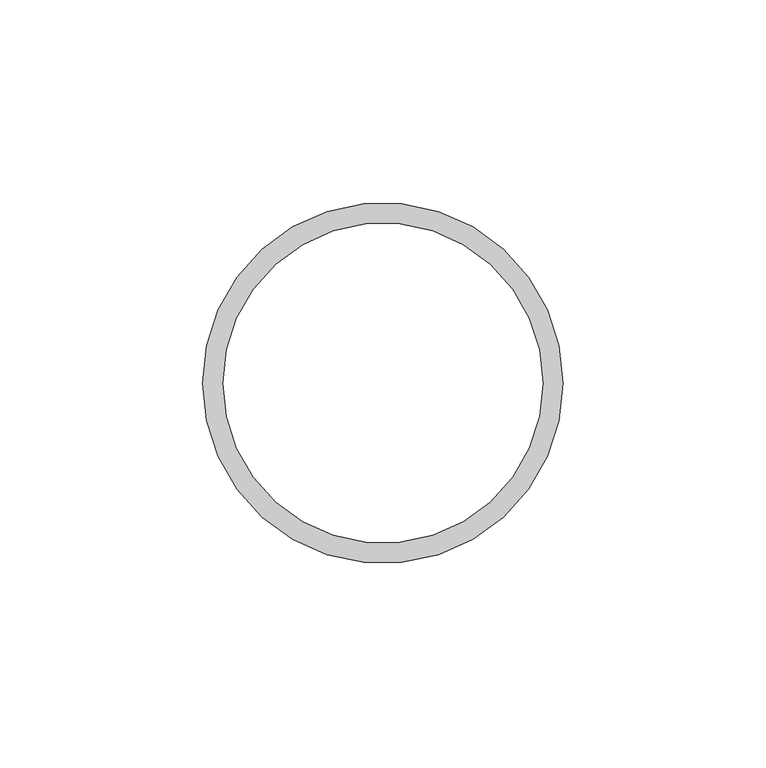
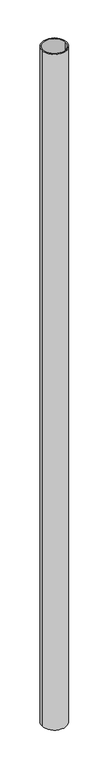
"""IFC4 building model written with IfcOpenShell, lengths in millimetres: column geometry, NLRS_28_SC_TLB_kolom buis_generiek_ISR : ø88.9x5 ."""

from ifc_helpers import new_model, si_unit, point, frame, origin, origin_2d, place, context, project, spatial, circle_curve, trimmed, segment, composite_curve, outline, extrude, source, transform, mapped, element, save


def column_b007c91a(model_context):
    return source(origin(), model_context, "Body", "SweptSolid", [
        extrude(outline(composite_curve([segment(trimmed(circle_curve(origin_2d(), 44.45), [point((44.45, 0.0))], [point((-44.45, 0.0))], False, "CARTESIAN"), True, "CONTINUOUS"), segment(trimmed(circle_curve(origin_2d(), 44.45), [point((-44.45, 0.0))], [point((44.45, 0.0))], False, "CARTESIAN"), True, "CONTINUOUS")], self_intersect=False), holes=[composite_curve([segment(trimmed(circle_curve(origin_2d(), 39.45), [point((39.45, 0.0))], [point((-39.45, 0.0))], True, "CARTESIAN"), True, "CONTINUOUS"), segment(trimmed(circle_curve(origin_2d(), 39.45), [point((-39.45, 0.0))], [point((39.45, 0.0))], True, "CARTESIAN"), True, "CONTINUOUS")], self_intersect=False)]), frame((0.0, 0.0, 5050.0), z_axis=(0.0, 0.0, 1.0), x_axis=(1.0, 0.0, 0.0)), (0.0, 0.0, 1.0), 2550.0),
    ])


if __name__ == "__main__":
    model = new_model("IFC4")
    model_context = context("Model", 3, world=origin())
    ifc_project = project(units=[si_unit("LENGTHUNIT", "METRE", prefix="MILLI")], contexts=[model_context])
    site = spatial("IfcSite", under=ifc_project)
    building = spatial("IfcBuilding", under=site)
    placement = place(None, origin())
    column_shape = column_b007c91a(model_context)
    element("IfcColumn", 1, ObjectType="NLRS_28_SC_TLB_kolom buis_generiek_ISR : ø88.9x5 ", at=placement, inside=building, context=model_context, shape_type="MappedRepresentation", body=[
        mapped(column_shape, transform((0.0, 0.0, 0.0), x_axis=(1.0, 0.0, 0.0), y_axis=(0.0, 1.0, 0.0), z_axis=(0.0, 0.0, 1.0))),
    ])
    save(model, "model.ifc")
